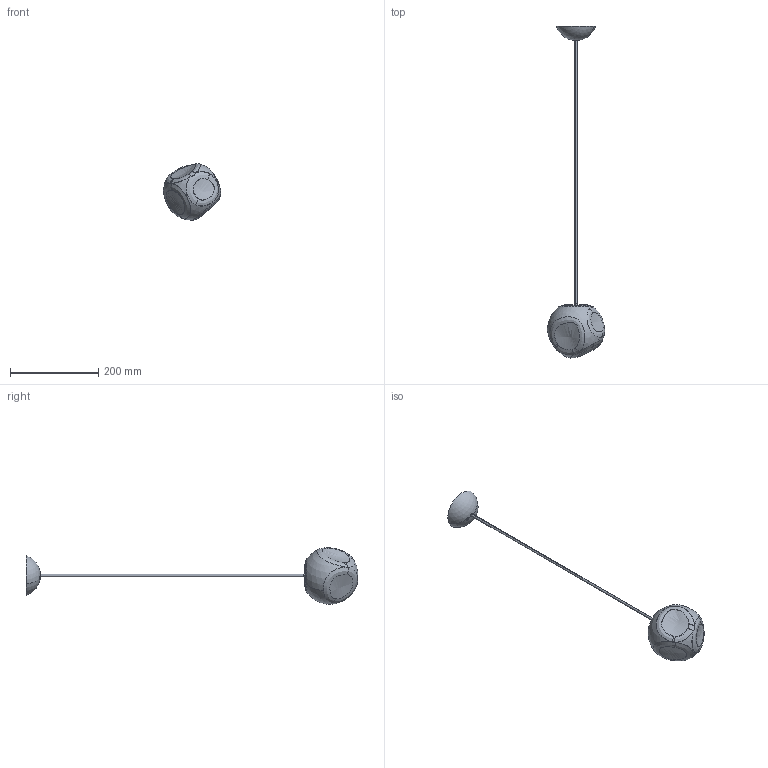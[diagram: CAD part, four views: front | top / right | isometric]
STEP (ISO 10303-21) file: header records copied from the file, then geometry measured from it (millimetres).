
FILE_DESCRIPTION (( 'STEP AP203' ), '1' );
FILE_NAME ('325_PICCOLA_S_PL_3D.STEP', '2023-12-13T14:01:04', ( '' ), ( '' ), 'SwSTEP 2.0', 'SolidWorks 2023', '' );
FILE_SCHEMA (( 'CONFIG_CONTROL_DESIGN' ));
Length unit declared in the file: millimetre
Products named in the file (1): 325_PICCOLA_S_PL_3D
Bounding box: 129.81 x 753.49 x 128 mm (x, y, z)
Surface area: 129851.7 mm2 (no closed solid volume)
Topology: 0 solids, 6 shells, 219 faces, 531 edges, 321 vertices
Faces by surface type: torus 83, cylinder 57, bspline 39, cone 16, plane 12, sphere 12
Entity records: 20958 total; most frequent: CARTESIAN_POINT 15822, DIRECTION 1141, ORIENTED_EDGE 1038, AXIS2_PLACEMENT_3D 534, EDGE_CURVE 522, CIRCLE 353, VERTEX_POINT 319, EDGE_LOOP 248
